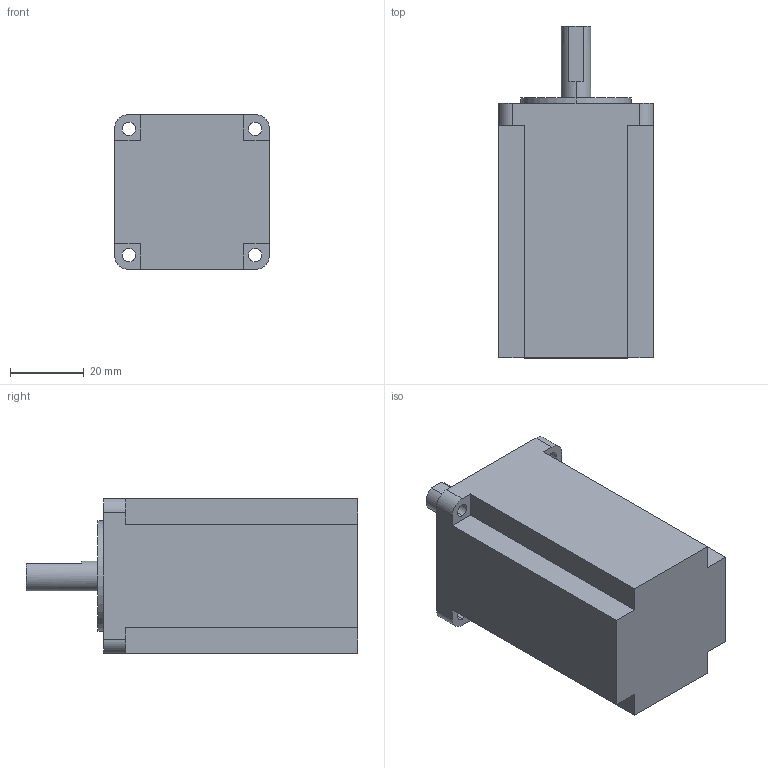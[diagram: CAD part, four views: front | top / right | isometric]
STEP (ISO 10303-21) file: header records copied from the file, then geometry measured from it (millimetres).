
FILE_DESCRIPTION (( 'STEP AP214' ), '1' );
FILE_NAME ('42A03EC.STEP', '2021-03-16T03:30:06', ( 'wimxt.com' ), ( 'wimxt.com' ), 'SwSTEP 2.0', 'SolidWorks 2014', '' );
FILE_SCHEMA (( 'AUTOMOTIVE_DESIGN' ));
Length unit declared in the file: millimetre
Products named in the file (1): 42A03EC
Bounding box: 42 x 90 x 42 mm (x, y, z)
Volume: 111068.2 mm3; surface area: 15873.8 mm2
Topology: 1 solids, 1 shells, 38 faces, 102 edges, 68 vertices
Faces by surface type: plane 22, cylinder 16
Entity records: 1250 total; most frequent: DIRECTION 214, CARTESIAN_POINT 209, ORIENTED_EDGE 204, EDGE_CURVE 102, AXIS2_PLACEMENT_3D 73, VERTEX_POINT 68, LINE 68, VECTOR 68
